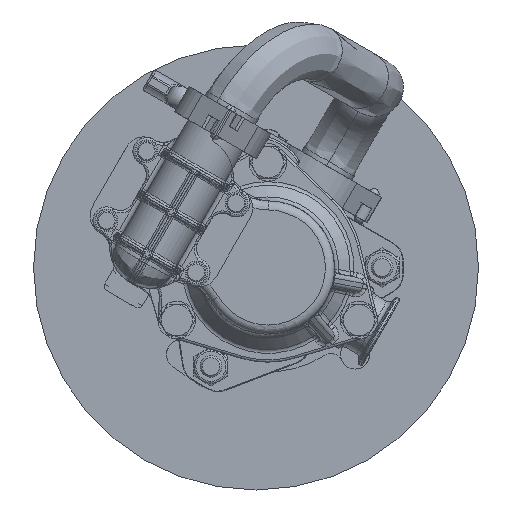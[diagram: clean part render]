
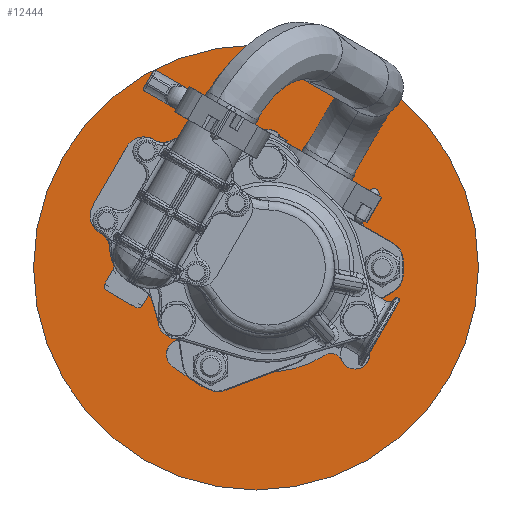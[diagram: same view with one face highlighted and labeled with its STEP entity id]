
A CAD part, front view. The second image highlights one B-rep face of the part: STEP entity #12444.
In plain terms, the highlighted planar face has unit normal (0, -1, 0).
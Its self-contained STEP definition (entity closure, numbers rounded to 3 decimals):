
#11530=CARTESIAN_POINT('',(-0.31,-0.39,0.));
#11531=DIRECTION('',(0.,-1.,0.));
#11532=DIRECTION('',(0.,0.,-1.));
#11533=AXIS2_PLACEMENT_3D('',#11530,#11531,#11532);
#11535=CARTESIAN_POINT('',(-0.31,-0.39,0.));
#11536=DIRECTION('',(0.,-1.,0.));
#11537=DIRECTION('',(0.,0.,1.));
#11538=AXIS2_PLACEMENT_3D('',#11535,#11536,#11537);
#12225=CARTESIAN_POINT('',(-0.31,-0.39,-5.75));
#12226=CARTESIAN_POINT('',(-0.31,-0.39,5.75));
#12227=VERTEX_POINT('',#12225);
#12228=VERTEX_POINT('',#12226);
#12433=CARTESIAN_POINT('',(0.,-0.39,0.));
#12434=DIRECTION('',(0.,-1.,0.));
#12435=DIRECTION('',(0.,0.,-1.));
#12436=AXIS2_PLACEMENT_3D('',#12433,#12434,#12435);
#12437=PLANE('',#12436);
#12439=ORIENTED_EDGE('',*,*,#12438,.F.);
#12441=ORIENTED_EDGE('',*,*,#12440,.F.);
#12442=EDGE_LOOP('',(#12439,#12441));
#12443=FACE_OUTER_BOUND('',#12442,.F.);
#12444=ADVANCED_FACE('',(#12443),#12437,.T.);
#11534=CIRCLE('',#11533,5.75);
#11539=CIRCLE('',#11538,5.75);
#12438=EDGE_CURVE('',#12227,#12228,#11534,.T.);
#12440=EDGE_CURVE('',#12228,#12227,#11539,.T.);
